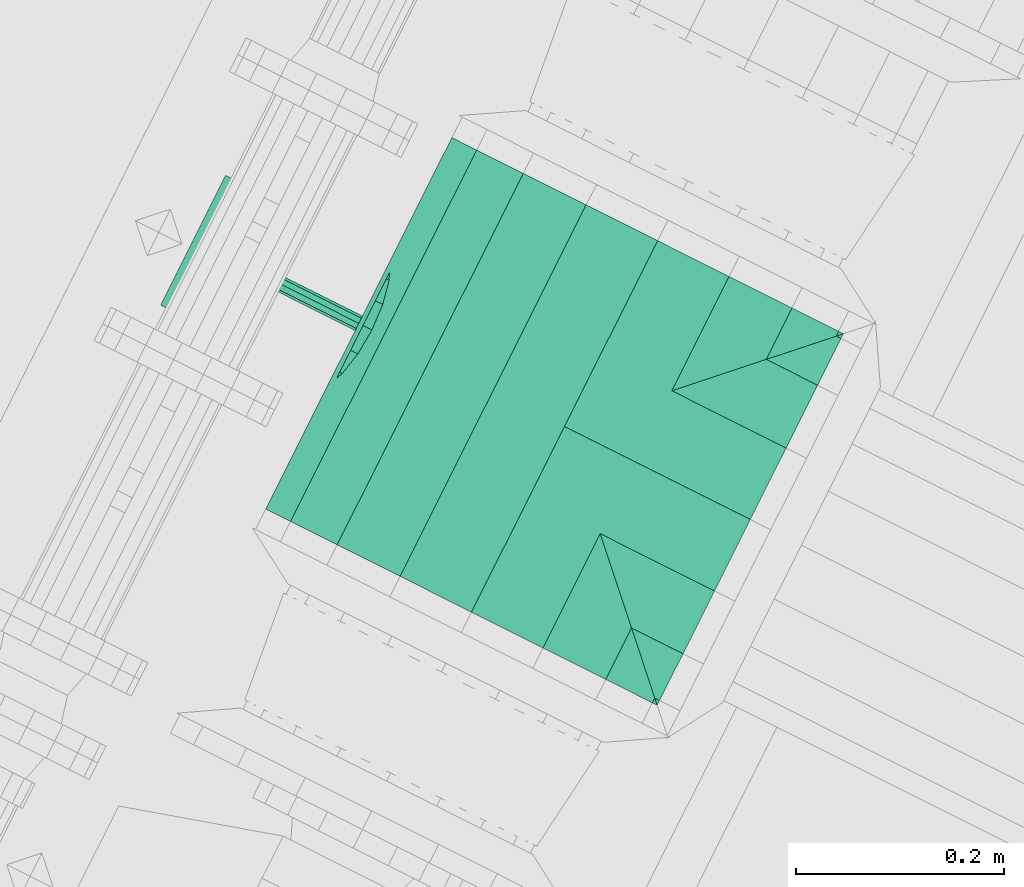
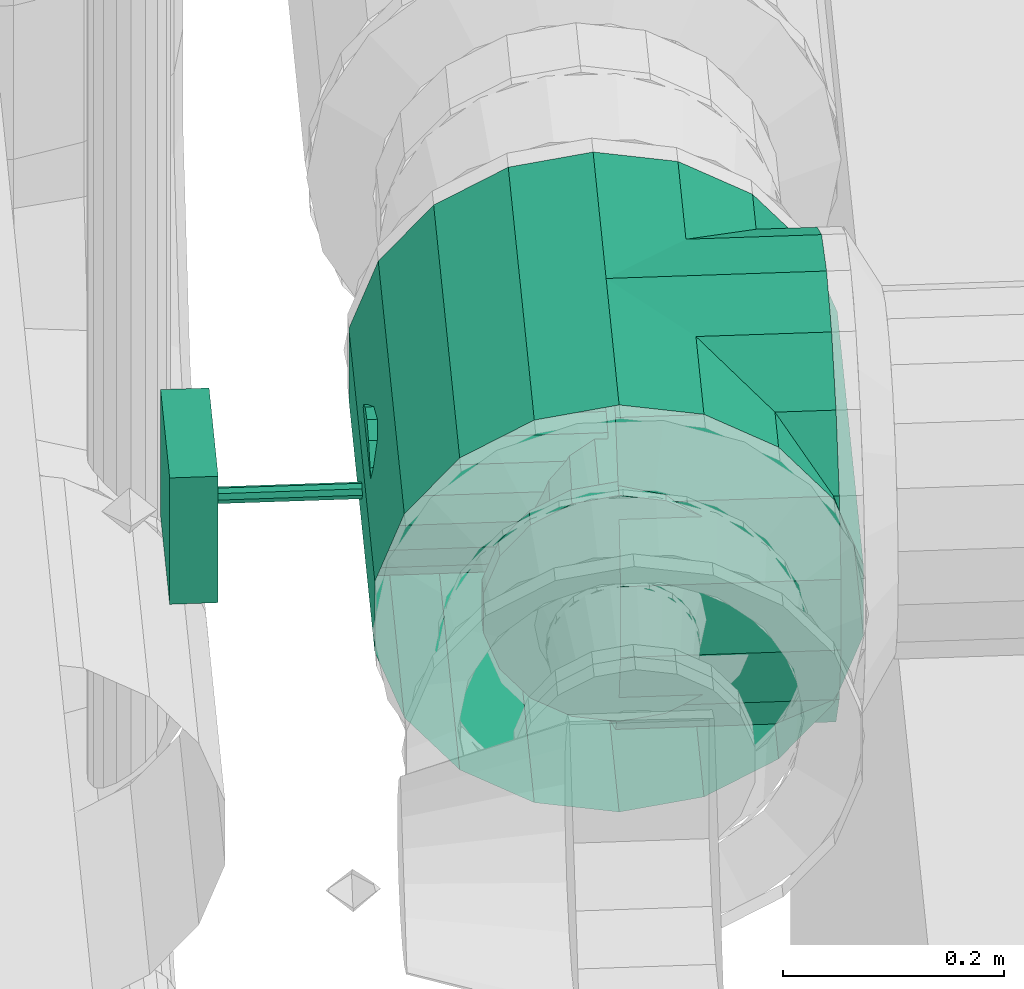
# One storey, part 70 of 206: 1 flow controller.
"""IFC2X3 building model written with IfcOpenShell, lengths in metres."""

from ifc_helpers import new_model, si_unit, derived_unit, direction, frame, origin, place, context, subcontext, project, spatial, face_set, surface_model, source, transform, mapped, material, type_object, type_shapes, element, save


model = new_model("IFC2X3")

# Units and contexts
model_context = context("Model", 3, precision=5.2338327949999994e-05, world=origin(), true_north=direction((0.0, 1.0)))
body_context = subcontext(model_context, "Body", "Model", "MODEL_VIEW")
ifc_project = project(units=[si_unit("LENGTHUNIT", "METRE"), si_unit("AREAUNIT", "SQUARE_METRE"), si_unit("VOLUMEUNIT", "CUBIC_METRE"), si_unit("MASSUNIT", "GRAM", prefix="KILO"), si_unit("PLANEANGLEUNIT", "RADIAN"), derived_unit("THERMALTRANSMITTANCEUNIT", [(si_unit("MASSUNIT", "GRAM", prefix="KILO"), 1), (si_unit("THERMODYNAMICTEMPERATUREUNIT", "KELVIN"), -1), (si_unit("TIMEUNIT", "SECOND"), -3)])], contexts=[model_context])

# Site, building, storey
site_placement = place(None, frame((0.0, 0.0, 0.0), z_axis=(0.0, 0.0, 1.0), x_axis=(0.8939966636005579, -0.4480736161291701, 0.0)))
site = spatial("IfcSite", under=ifc_project, at=site_placement, Name="Default", CompositionType="ELEMENT")
building_placement = place(site_placement, origin())
building = spatial("IfcBuilding", under=site, at=building_placement, CompositionType="ELEMENT")
storey_placement = place(building_placement, origin())
storey = spatial("IfcBuildingStorey", under=building, at=storey_placement, Name="Erdgeschoss", CompositionType="ELEMENT", Elevation=0.0)

# Flow controller
ifc_material = material(Name="IfcSurfaceStyle #1741")
distribution_element_type = type_object("IfcDistributionElementType", Name="Dreiwegeventil 340742:Dreiwegeventil 340742", material=ifc_material)
shared_shape = source(origin(), body_context, "Body", "SurfaceModel", [
    surface_model("IfcFaceBasedSurfaceModel", [(25.083855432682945, 6.5891110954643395, 2.42385), (25.083855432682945, 6.728811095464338, 2.42385), (25.083855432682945, 6.728811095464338, 2.2841500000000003), (25.083855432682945, 6.5891110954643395, 2.2841500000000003), (25.039855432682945, 6.728811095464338, 2.2841500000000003), (25.039855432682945, 6.5891110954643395, 2.2841500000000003), (25.039855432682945, 6.728811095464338, 2.42385), (25.039855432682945, 6.5891110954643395, 2.42385), (25.439855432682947, 6.45896109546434, 2.229), (25.397102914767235, 6.45896109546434, 2.236538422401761), (25.397102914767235, 6.480961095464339, 2.236538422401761), (25.439855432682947, 6.480961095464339, 2.229), (25.359506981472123, 6.45896109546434, 2.2582444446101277), (25.359506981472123, 6.480961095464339, 2.2582444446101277), (25.33160225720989, 6.45896109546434, 2.2915), (25.33160225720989, 6.480961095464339, 2.2915), (25.31675446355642, 6.45896109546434, 2.3322939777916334), (25.31675446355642, 6.480961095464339, 2.3322939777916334), (25.31675446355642, 6.45896109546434, 2.3757060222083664), (25.31675446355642, 6.480961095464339, 2.3757060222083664), (25.33160225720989, 6.45896109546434, 2.4165), (25.33160225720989, 6.480961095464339, 2.4165), (25.359506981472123, 6.45896109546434, 2.4497555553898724), (25.359506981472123, 6.480961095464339, 2.4497555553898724), (25.397102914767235, 6.45896109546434, 2.4714615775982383), (25.397102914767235, 6.480961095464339, 2.4714615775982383), (25.439855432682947, 6.45896109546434, 2.479), (25.439855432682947, 6.480961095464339, 2.479), (25.482607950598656, 6.45896109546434, 2.4714615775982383), (25.482607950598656, 6.480961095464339, 2.4714615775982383), (25.520203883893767, 6.45896109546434, 2.4497555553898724), (25.520203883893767, 6.480961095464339, 2.4497555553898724), (25.548108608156, 6.45896109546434, 2.4165), (25.548108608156, 6.480961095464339, 2.4165), (25.56295640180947, 6.45896109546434, 2.3757060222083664), (25.56295640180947, 6.480961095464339, 2.3757060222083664), (25.56295640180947, 6.45896109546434, 2.3322939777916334), (25.56295640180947, 6.480961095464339, 2.3322939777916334), (25.548108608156, 6.45896109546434, 2.2915), (25.548108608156, 6.480961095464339, 2.2915), (25.520203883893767, 6.45896109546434, 2.2582444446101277), (25.520203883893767, 6.480961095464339, 2.2582444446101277), (25.482607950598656, 6.45896109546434, 2.236538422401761), (25.482607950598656, 6.480961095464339, 2.236538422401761), (25.439855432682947, 6.458961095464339, 2.354), (25.439855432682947, 6.480961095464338, 2.354), (25.517855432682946, 6.480961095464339, 2.354), (25.513151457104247, 6.480961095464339, 2.327322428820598), (25.505492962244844, 6.65896109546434, 2.330109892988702), (25.509705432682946, 6.65896109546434, 2.3539999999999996), (25.499606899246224, 6.480961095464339, 2.3038625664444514), (25.493363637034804, 6.65896109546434, 2.309101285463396), (25.478855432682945, 6.480961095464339, 2.286450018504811), (25.474780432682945, 6.65896109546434, 2.293508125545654), (25.45339999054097, 6.480961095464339, 2.277184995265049), (25.451984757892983, 6.65896109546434, 2.285211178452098), (25.426310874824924, 6.480961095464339, 2.277184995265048), (25.427726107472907, 6.65896109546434, 2.2852111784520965), (25.400855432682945, 6.480961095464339, 2.2864500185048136), (25.404930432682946, 6.65896109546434, 2.2935081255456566), (25.380103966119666, 6.480961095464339, 2.303862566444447), (25.386347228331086, 6.65896109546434, 2.3091012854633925), (25.366559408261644, 6.480961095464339, 2.3273224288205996), (25.374217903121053, 6.65896109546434, 2.330109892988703), (25.361855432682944, 6.480961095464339, 2.353999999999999), (25.370005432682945, 6.65896109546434, 2.3539999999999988), (25.366559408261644, 6.480961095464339, 2.380677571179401), (25.374217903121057, 6.65896109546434, 2.3778901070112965), (25.380103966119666, 6.480961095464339, 2.4041374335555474), (25.386347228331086, 6.65896109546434, 2.398898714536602), (25.400855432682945, 6.480961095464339, 2.4215499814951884), (25.404930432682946, 6.65896109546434, 2.4144918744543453), (25.426310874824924, 6.480961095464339, 2.4308150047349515), (25.427726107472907, 6.65896109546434, 2.422788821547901), (25.45339999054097, 6.480961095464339, 2.4308150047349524), (25.451984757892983, 6.65896109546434, 2.4227888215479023), (25.478855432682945, 6.480961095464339, 2.4215499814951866), (25.474780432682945, 6.65896109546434, 2.414491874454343), (25.499606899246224, 6.480961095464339, 2.404137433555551), (25.493363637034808, 6.65896109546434, 2.3988987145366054), (25.513151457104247, 6.480961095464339, 2.380677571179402), (25.505492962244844, 6.65896109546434, 2.3778901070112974), (25.51315145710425, 6.836961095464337, 2.3273224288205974), (25.51785543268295, 6.836961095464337, 2.354), (25.49960689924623, 6.836961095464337, 2.3038625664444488), (25.478855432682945, 6.836961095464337, 2.2864500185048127), (25.45339999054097, 6.836961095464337, 2.277184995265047), (25.426310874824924, 6.836961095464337, 2.277184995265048), (25.400855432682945, 6.836961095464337, 2.2864500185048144), (25.38010396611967, 6.836961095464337, 2.3038625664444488), (25.366559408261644, 6.836961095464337, 2.3273224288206), (25.36185543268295, 6.836961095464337, 2.354), (25.366559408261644, 6.836961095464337, 2.3806775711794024), (25.380103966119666, 6.836961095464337, 2.40413743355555), (25.400855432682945, 6.836961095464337, 2.4215499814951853), (25.426310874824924, 6.836961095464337, 2.4308150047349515), (25.45339999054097, 6.836961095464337, 2.4308150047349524), (25.478855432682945, 6.836961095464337, 2.421549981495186), (25.499606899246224, 6.836961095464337, 2.4041374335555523), (25.51315145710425, 6.836961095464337, 2.3806775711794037), (25.439855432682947, 6.836961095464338, 2.229), (25.397102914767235, 6.836961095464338, 2.236538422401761), (25.397102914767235, 6.8589610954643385, 2.236538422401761), (25.439855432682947, 6.8589610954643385, 2.229), (25.359506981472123, 6.836961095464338, 2.2582444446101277), (25.359506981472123, 6.8589610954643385, 2.2582444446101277), (25.33160225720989, 6.836961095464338, 2.2915), (25.33160225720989, 6.8589610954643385, 2.2915), (25.31675446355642, 6.836961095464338, 2.3322939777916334), (25.31675446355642, 6.8589610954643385, 2.3322939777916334), (25.31675446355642, 6.836961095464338, 2.3757060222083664), (25.31675446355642, 6.8589610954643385, 2.3757060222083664), (25.33160225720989, 6.836961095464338, 2.4165), (25.33160225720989, 6.8589610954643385, 2.4165), (25.359506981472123, 6.836961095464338, 2.4497555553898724), (25.359506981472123, 6.8589610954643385, 2.4497555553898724), (25.397102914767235, 6.836961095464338, 2.4714615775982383), (25.397102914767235, 6.8589610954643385, 2.4714615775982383), (25.439855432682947, 6.836961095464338, 2.479), (25.439855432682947, 6.8589610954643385, 2.479), (25.482607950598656, 6.836961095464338, 2.4714615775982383), (25.482607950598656, 6.8589610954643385, 2.4714615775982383), (25.520203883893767, 6.836961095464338, 2.4497555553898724), (25.520203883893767, 6.8589610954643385, 2.4497555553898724), (25.548108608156, 6.836961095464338, 2.4165), (25.548108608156, 6.8589610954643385, 2.4165), (25.56295640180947, 6.836961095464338, 2.3757060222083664), (25.56295640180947, 6.8589610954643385, 2.3757060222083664), (25.56295640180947, 6.836961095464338, 2.3322939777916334), (25.56295640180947, 6.8589610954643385, 2.3322939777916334), (25.548108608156, 6.836961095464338, 2.2915), (25.548108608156, 6.8589610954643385, 2.2915), (25.520203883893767, 6.836961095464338, 2.2582444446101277), (25.520203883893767, 6.8589610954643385, 2.2582444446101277), (25.482607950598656, 6.836961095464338, 2.236538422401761), (25.482607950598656, 6.8589610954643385, 2.236538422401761), (25.439855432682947, 6.836961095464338, 2.354), (25.439855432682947, 6.858961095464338, 2.354), (25.439855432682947, 6.658961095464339, 2.276), (25.439855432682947, 6.6322835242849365, 2.2807039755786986), (25.222855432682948, 6.6322835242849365, 2.2807039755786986), (25.222855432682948, 6.658961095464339, 2.276), (25.439855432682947, 6.608823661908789, 2.2942485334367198), (25.222855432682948, 6.608823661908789, 2.2942485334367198), (25.439855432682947, 6.591411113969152, 2.315), (25.222855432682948, 6.591411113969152, 2.315), (25.439855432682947, 6.582146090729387, 2.3404554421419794), (25.222855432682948, 6.582146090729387, 2.3404554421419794), (25.439855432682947, 6.582146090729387, 2.3675445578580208), (25.222855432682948, 6.582146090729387, 2.3675445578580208), (25.439855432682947, 6.591411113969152, 2.3930000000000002), (25.222855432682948, 6.591411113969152, 2.3930000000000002), (25.439855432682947, 6.608823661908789, 2.4137514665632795), (25.222855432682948, 6.608823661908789, 2.4137514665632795), (25.439855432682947, 6.6322835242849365, 2.427296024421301), (25.222855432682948, 6.6322835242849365, 2.427296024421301), (25.439855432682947, 6.658961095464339, 2.4319999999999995), (25.222855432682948, 6.658961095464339, 2.4319999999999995), (25.439855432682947, 6.685638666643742, 2.427296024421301), (25.222855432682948, 6.685638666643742, 2.427296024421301), (25.439855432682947, 6.709098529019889, 2.41375146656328), (25.222855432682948, 6.709098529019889, 2.41375146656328), (25.439855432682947, 6.726511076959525, 2.3930000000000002), (25.222855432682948, 6.726511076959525, 2.3930000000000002), (25.439855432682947, 6.73577610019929, 2.3675445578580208), (25.222855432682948, 6.73577610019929, 2.3675445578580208), (25.439855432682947, 6.73577610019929, 2.3404554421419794), (25.222855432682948, 6.73577610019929, 2.3404554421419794), (25.439855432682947, 6.726511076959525, 2.315), (25.222855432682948, 6.726511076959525, 2.315), (25.439855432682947, 6.709098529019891, 2.2942485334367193), (25.222855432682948, 6.709098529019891, 2.2942485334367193), (25.439855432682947, 6.685638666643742, 2.280703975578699), (25.222855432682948, 6.685638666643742, 2.280703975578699), (25.439855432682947, 6.658961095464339, 2.354), (25.222855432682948, 6.658961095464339, 2.354), (25.222855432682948, 6.658961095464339, 2.3462), (25.222855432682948, 6.653445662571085, 2.348484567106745), (25.083855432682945, 6.653445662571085, 2.348484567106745), (25.083855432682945, 6.658961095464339, 2.3462), (25.222855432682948, 6.65116109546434, 2.3539999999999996), (25.083855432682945, 6.65116109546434, 2.3539999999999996), (25.222855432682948, 6.653445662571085, 2.359515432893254), (25.083855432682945, 6.653445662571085, 2.359515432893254), (25.222855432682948, 6.658961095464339, 2.3617999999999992), (25.083855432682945, 6.658961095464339, 2.3617999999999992), (25.222855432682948, 6.664476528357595, 2.359515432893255), (25.083855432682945, 6.664476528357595, 2.359515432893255), (25.222855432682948, 6.666761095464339, 2.3540000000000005), (25.083855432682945, 6.666761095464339, 2.3540000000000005), (25.222855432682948, 6.664476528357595, 2.3484845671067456), (25.083855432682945, 6.664476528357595, 2.3484845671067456), (25.083855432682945, 6.658961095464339, 2.354), (25.439855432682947, 6.5891110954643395, 2.354), (25.439855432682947, 6.593323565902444, 2.3301098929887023), (25.617855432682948, 6.585665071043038, 2.3273224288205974), (25.617855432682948, 6.580961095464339, 2.354), (25.439855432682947, 6.605452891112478, 2.3091012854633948), (25.617855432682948, 6.599209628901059, 2.303862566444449), (25.439855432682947, 6.624036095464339, 2.293508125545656), (25.617855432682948, 6.619961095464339, 2.286450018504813), (25.439855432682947, 6.646831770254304, 2.285211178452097), (25.617855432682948, 6.6454165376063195, 2.277184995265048), (25.439855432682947, 6.671090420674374, 2.285211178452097), (25.617855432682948, 6.672505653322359, 2.277184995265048), (25.439855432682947, 6.6938860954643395, 2.2935081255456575), (25.617855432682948, 6.69796109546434, 2.2864500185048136), (25.439855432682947, 6.7124692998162, 2.309101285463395), (25.617855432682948, 6.718712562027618, 2.3038625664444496), (25.439855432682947, 6.724598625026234, 2.3301098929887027), (25.617855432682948, 6.73225711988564, 2.3273224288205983), (25.439855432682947, 6.728811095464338, 2.354), (25.617855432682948, 6.7369610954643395, 2.354), (25.439855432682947, 6.724598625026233, 2.3778901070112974), (25.617855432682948, 6.732257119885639, 2.380677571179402), (25.439855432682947, 6.712469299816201, 2.3988987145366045), (25.617855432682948, 6.718712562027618, 2.40413743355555), (25.439855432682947, 6.6938860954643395, 2.414491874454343), (25.617855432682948, 6.69796109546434, 2.4215499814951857), (25.439855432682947, 6.671090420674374, 2.4227888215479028), (25.617855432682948, 6.672505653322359, 2.430815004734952), (25.439855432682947, 6.646831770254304, 2.4227888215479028), (25.617855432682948, 6.6454165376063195, 2.4308150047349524), (25.439855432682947, 6.624036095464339, 2.4144918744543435), (25.617855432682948, 6.619961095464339, 2.4215499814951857), (25.439855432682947, 6.6054528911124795, 2.3988987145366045), (25.617855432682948, 6.59920962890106, 2.40413743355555), (25.439855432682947, 6.593323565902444, 2.3778901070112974), (25.617855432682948, 6.585665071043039, 2.380677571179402), (25.617855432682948, 6.658961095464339, 2.229), (25.617855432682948, 6.701713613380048, 2.236538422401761), (25.639855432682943, 6.701713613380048, 2.236538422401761), (25.639855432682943, 6.658961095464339, 2.229), (25.617855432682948, 6.739309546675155, 2.2582444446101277), (25.639855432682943, 6.739309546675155, 2.2582444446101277), (25.617855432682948, 6.7672142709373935, 2.291499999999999), (25.639855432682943, 6.7672142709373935, 2.291499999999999), (25.617855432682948, 6.782062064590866, 2.332293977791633), (25.639855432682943, 6.782062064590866, 2.332293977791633), (25.617855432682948, 6.782062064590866, 2.3757060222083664), (25.639855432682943, 6.782062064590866, 2.3757060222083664), (25.617855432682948, 6.7672142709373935, 2.4165000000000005), (25.639855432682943, 6.7672142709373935, 2.4165000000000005), (25.617855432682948, 6.739309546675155, 2.4497555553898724), (25.639855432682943, 6.739309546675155, 2.4497555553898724), (25.617855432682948, 6.701713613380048, 2.4714615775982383), (25.639855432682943, 6.701713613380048, 2.4714615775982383), (25.617855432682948, 6.658961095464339, 2.479), (25.639855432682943, 6.658961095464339, 2.479), (25.617855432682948, 6.616208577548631, 2.4714615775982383), (25.639855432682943, 6.616208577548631, 2.4714615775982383), (25.617855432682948, 6.578612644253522, 2.4497555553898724), (25.639855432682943, 6.578612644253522, 2.4497555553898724), (25.617855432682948, 6.550707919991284, 2.4165000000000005), (25.639855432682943, 6.550707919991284, 2.4165000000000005), (25.617855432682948, 6.535860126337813, 2.3757060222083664), (25.639855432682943, 6.535860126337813, 2.3757060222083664), (25.617855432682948, 6.535860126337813, 2.3322939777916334), (25.639855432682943, 6.535860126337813, 2.3322939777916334), (25.617855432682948, 6.550707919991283, 2.2914999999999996), (25.639855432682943, 6.550707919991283, 2.2914999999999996), (25.617855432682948, 6.578612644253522, 2.2582444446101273), (25.639855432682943, 6.578612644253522, 2.2582444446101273), (25.617855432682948, 6.616208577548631, 2.2365384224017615), (25.639855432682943, 6.616208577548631, 2.2365384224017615), (25.617855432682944, 6.658961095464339, 2.354), (25.63985543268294, 6.658961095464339, 2.354), (25.43985543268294, 6.45896109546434, 2.1289999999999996), (25.362900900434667, 6.45896109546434, 2.1425691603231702), (25.362900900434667, 6.8589610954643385, 2.1425691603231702), (25.43985543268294, 6.8589610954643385, 2.1289999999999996), (25.29522822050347, 6.45896109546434, 2.1816400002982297), (25.29522822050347, 6.8589610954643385, 2.1816400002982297), (25.24499971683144, 6.45896109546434, 2.2415), (25.24499971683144, 6.8589610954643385, 2.2415), (25.2182736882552, 6.45896109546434, 2.3149291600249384), (25.2182736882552, 6.8589610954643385, 2.3149291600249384), (25.2182736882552, 6.45896109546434, 2.393070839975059), (25.2182736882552, 6.8589610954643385, 2.393070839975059), (25.24499971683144, 6.45896109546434, 2.4665000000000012), (25.24499971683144, 6.8589610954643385, 2.4665000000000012), (25.29522822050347, 6.45896109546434, 2.52635999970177), (25.29522822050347, 6.8589610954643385, 2.52635999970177), (25.362900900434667, 6.45896109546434, 2.565430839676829), (25.362900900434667, 6.8589610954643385, 2.565430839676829), (25.43985543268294, 6.45896109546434, 2.5790000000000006), (25.43985543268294, 6.8589610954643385, 2.5790000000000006), (25.516809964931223, 6.45896109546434, 2.5654308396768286), (25.516809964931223, 6.8589610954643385, 2.5654308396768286), (25.584482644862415, 6.45896109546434, 2.526359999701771), (25.584482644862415, 6.8589610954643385, 2.526359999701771), (25.63471114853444, 6.45896109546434, 2.4664999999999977), (25.63471114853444, 6.8589610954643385, 2.4664999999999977), (25.66143717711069, 6.45896109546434, 2.393070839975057), (25.66143717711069, 6.8589610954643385, 2.393070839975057), (25.66143717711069, 6.45896109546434, 2.31492916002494), (25.66143717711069, 6.8589610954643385, 2.31492916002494), (25.63471114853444, 6.45896109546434, 2.2415000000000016), (25.63471114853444, 6.8589610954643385, 2.2415000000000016), (25.584482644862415, 6.45896109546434, 2.181640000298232), (25.584482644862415, 6.8589610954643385, 2.181640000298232), (25.51680996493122, 6.45896109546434, 2.1425691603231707), (25.51680996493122, 6.8589610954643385, 2.1425691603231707), (25.43985543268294, 6.658961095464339, 2.129), (25.43985543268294, 6.735915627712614, 2.1425691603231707), (25.639855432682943, 6.735915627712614, 2.1425691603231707), (25.639855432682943, 6.658961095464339, 2.129), (25.43985543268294, 6.80358830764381, 2.1816400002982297), (25.639855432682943, 6.80358830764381, 2.1816400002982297), (25.43985543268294, 6.853816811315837, 2.2415), (25.639855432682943, 6.853816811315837, 2.2415), (25.43985543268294, 6.880542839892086, 2.31492916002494), (25.639855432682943, 6.880542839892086, 2.31492916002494), (25.43985543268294, 6.880542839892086, 2.393070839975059), (25.639855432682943, 6.880542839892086, 2.393070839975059), (25.43985543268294, 6.853816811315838, 2.4664999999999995), (25.639855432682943, 6.853816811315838, 2.4664999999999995), (25.43985543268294, 6.803588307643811, 2.52635999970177), (25.639855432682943, 6.803588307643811, 2.52635999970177), (25.43985543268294, 6.735915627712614, 2.565430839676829), (25.639855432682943, 6.735915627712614, 2.565430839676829), (25.43985543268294, 6.658961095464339, 2.579), (25.639855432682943, 6.658961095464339, 2.579), (25.43985543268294, 6.582006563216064, 2.565430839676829), (25.639855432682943, 6.582006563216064, 2.565430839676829), (25.43985543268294, 6.514333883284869, 2.52635999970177), (25.639855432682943, 6.514333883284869, 2.52635999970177), (25.43985543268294, 6.464105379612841, 2.4664999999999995), (25.639855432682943, 6.464105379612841, 2.4664999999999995), (25.43985543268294, 6.437379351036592, 2.3930708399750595), (25.639855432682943, 6.437379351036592, 2.3930708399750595), (25.43985543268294, 6.437379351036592, 2.31492916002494), (25.639855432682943, 6.437379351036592, 2.31492916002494), (25.43985543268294, 6.464105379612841, 2.241499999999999), (25.639855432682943, 6.464105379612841, 2.241499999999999), (25.43985543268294, 6.514333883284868, 2.1816400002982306), (25.639855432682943, 6.514333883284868, 2.1816400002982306), (25.43985543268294, 6.582006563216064, 2.14256916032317), (25.639855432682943, 6.582006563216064, 2.14256916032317)], [face_set([[[0, 1, 2, 3]], [[3, 2, 4, 5]], [[5, 4, 6, 7]], [[7, 6, 1, 0]], [[0, 3, 5, 7]], [[6, 4, 2, 1]], [[8, 9, 10, 11]], [[9, 12, 13, 10]], [[12, 14, 15, 13]], [[14, 16, 17, 15]], [[16, 18, 19, 17]], [[18, 20, 21, 19]], [[20, 22, 23, 21]], [[22, 24, 25, 23]], [[24, 26, 27, 25]], [[26, 28, 29, 27]], [[28, 30, 31, 29]], [[30, 32, 33, 31]], [[32, 34, 35, 33]], [[34, 36, 37, 35]], [[36, 38, 39, 37]], [[38, 40, 41, 39]], [[40, 42, 43, 41]], [[42, 8, 11, 43]], [[44, 9, 8]], [[44, 12, 9]], [[44, 14, 12]], [[44, 16, 14]], [[44, 18, 16]], [[44, 20, 18]], [[44, 22, 20]], [[44, 24, 22]], [[44, 26, 24]], [[44, 28, 26]], [[44, 30, 28]], [[44, 32, 30]], [[44, 34, 32]], [[44, 36, 34]], [[44, 38, 36]], [[44, 40, 38]], [[44, 42, 40]], [[44, 8, 42]], [[45, 43, 11]], [[45, 41, 43]], [[45, 39, 41]], [[45, 37, 39]], [[45, 35, 37]], [[45, 33, 35]], [[45, 31, 33]], [[45, 29, 31]], [[45, 27, 29]], [[45, 25, 27]], [[45, 23, 25]], [[45, 21, 23]], [[45, 19, 21]], [[45, 17, 19]], [[45, 15, 17]], [[45, 13, 15]], [[45, 10, 13]], [[45, 11, 10]], [[46, 47, 48, 49]], [[47, 50, 51, 48]], [[50, 52, 53, 51]], [[52, 54, 55, 53]], [[54, 56, 57, 55]], [[56, 58, 59, 57]], [[58, 60, 61, 59]], [[60, 62, 63, 61]], [[62, 64, 65, 63]], [[64, 66, 67, 65]], [[66, 68, 69, 67]], [[68, 70, 71, 69]], [[70, 72, 73, 71]], [[72, 74, 75, 73]], [[74, 76, 77, 75]], [[76, 78, 79, 77]], [[78, 80, 81, 79]], [[80, 46, 49, 81]], [[49, 48, 82, 83]], [[48, 51, 84, 82]], [[51, 53, 85, 84]], [[53, 55, 86, 85]], [[55, 57, 87, 86]], [[57, 59, 88, 87]], [[59, 61, 89, 88]], [[61, 63, 90, 89]], [[63, 65, 91, 90]], [[65, 67, 92, 91]], [[67, 69, 93, 92]], [[69, 71, 94, 93]], [[71, 73, 95, 94]], [[73, 75, 96, 95]], [[75, 77, 97, 96]], [[77, 79, 98, 97]], [[79, 81, 99, 98]], [[81, 49, 83, 99]], [[100, 101, 102, 103]], [[101, 104, 105, 102]], [[104, 106, 107, 105]], [[106, 108, 109, 107]], [[108, 110, 111, 109]], [[110, 112, 113, 111]], [[112, 114, 115, 113]], [[114, 116, 117, 115]], [[116, 118, 119, 117]], [[118, 120, 121, 119]], [[120, 122, 123, 121]], [[122, 124, 125, 123]], [[124, 126, 127, 125]], [[126, 128, 129, 127]], [[128, 130, 131, 129]], [[130, 132, 133, 131]], [[132, 134, 135, 133]], [[134, 100, 103, 135]], [[136, 101, 100]], [[136, 104, 101]], [[136, 106, 104]], [[136, 108, 106]], [[136, 110, 108]], [[136, 112, 110]], [[136, 114, 112]], [[136, 116, 114]], [[136, 118, 116]], [[136, 120, 118]], [[136, 122, 120]], [[136, 124, 122]], [[136, 126, 124]], [[136, 128, 126]], [[136, 130, 128]], [[136, 132, 130]], [[136, 134, 132]], [[136, 100, 134]], [[137, 135, 103]], [[137, 133, 135]], [[137, 131, 133]], [[137, 129, 131]], [[137, 127, 129]], [[137, 125, 127]], [[137, 123, 125]], [[137, 121, 123]], [[137, 119, 121]], [[137, 117, 119]], [[137, 115, 117]], [[137, 113, 115]], [[137, 111, 113]], [[137, 109, 111]], [[137, 107, 109]], [[137, 105, 107]], [[137, 102, 105]], [[137, 103, 102]], [[138, 139, 140, 141]], [[139, 142, 143, 140]], [[142, 144, 145, 143]], [[144, 146, 147, 145]], [[146, 148, 149, 147]], [[148, 150, 151, 149]], [[150, 152, 153, 151]], [[152, 154, 155, 153]], [[154, 156, 157, 155]], [[156, 158, 159, 157]], [[158, 160, 161, 159]], [[160, 162, 163, 161]], [[162, 164, 165, 163]], [[164, 166, 167, 165]], [[166, 168, 169, 167]], [[168, 170, 171, 169]], [[170, 172, 173, 171]], [[172, 138, 141, 173]], [[174, 139, 138]], [[174, 142, 139]], [[174, 144, 142]], [[174, 146, 144]], [[174, 148, 146]], [[174, 150, 148]], [[174, 152, 150]], [[174, 154, 152]], [[174, 156, 154]], [[174, 158, 156]], [[174, 160, 158]], [[174, 162, 160]], [[174, 164, 162]], [[174, 166, 164]], [[174, 168, 166]], [[174, 170, 168]], [[174, 172, 170]], [[174, 138, 172]], [[175, 173, 141]], [[175, 171, 173]], [[175, 169, 171]], [[175, 167, 169]], [[175, 165, 167]], [[175, 163, 165]], [[175, 161, 163]], [[175, 159, 161]], [[175, 157, 159]], [[175, 155, 157]], [[175, 153, 155]], [[175, 151, 153]], [[175, 149, 151]], [[175, 147, 149]], [[175, 145, 147]], [[175, 143, 145]], [[175, 140, 143]], [[175, 141, 140]], [[176, 177, 178, 179]], [[177, 180, 181, 178]], [[180, 182, 183, 181]], [[182, 184, 185, 183]], [[184, 186, 187, 185]], [[186, 188, 189, 187]], [[188, 190, 191, 189]], [[190, 176, 179, 191]], [[192, 191, 179]], [[192, 189, 191]], [[192, 187, 189]], [[192, 185, 187]], [[192, 183, 185]], [[192, 181, 183]], [[192, 178, 181]], [[192, 179, 178]], [[193, 194, 195, 196]], [[194, 197, 198, 195]], [[197, 199, 200, 198]], [[199, 201, 202, 200]], [[201, 203, 204, 202]], [[203, 205, 206, 204]], [[205, 207, 208, 206]], [[207, 209, 210, 208]], [[209, 211, 212, 210]], [[211, 213, 214, 212]], [[213, 215, 216, 214]], [[215, 217, 218, 216]], [[217, 219, 220, 218]], [[219, 221, 222, 220]], [[221, 223, 224, 222]], [[223, 225, 226, 224]], [[225, 227, 228, 226]], [[227, 193, 196, 228]], [[229, 230, 231, 232]], [[230, 233, 234, 231]], [[233, 235, 236, 234]], [[235, 237, 238, 236]], [[237, 239, 240, 238]], [[239, 241, 242, 240]], [[241, 243, 244, 242]], [[243, 245, 246, 244]], [[245, 247, 248, 246]], [[247, 249, 250, 248]], [[249, 251, 252, 250]], [[251, 253, 254, 252]], [[253, 255, 256, 254]], [[255, 257, 258, 256]], [[257, 259, 260, 258]], [[259, 261, 262, 260]], [[261, 263, 264, 262]], [[263, 229, 232, 264]], [[265, 230, 229]], [[265, 233, 230]], [[265, 235, 233]], [[265, 237, 235]], [[265, 239, 237]], [[265, 241, 239]], [[265, 243, 241]], [[265, 245, 243]], [[265, 247, 245]], [[265, 249, 247]], [[265, 251, 249]], [[265, 253, 251]], [[265, 255, 253]], [[265, 257, 255]], [[265, 259, 257]], [[265, 261, 259]], [[265, 263, 261]], [[265, 229, 263]], [[266, 264, 232]], [[266, 262, 264]], [[266, 260, 262]], [[266, 258, 260]], [[266, 256, 258]], [[266, 254, 256]], [[266, 252, 254]], [[266, 250, 252]], [[266, 248, 250]], [[266, 246, 248]], [[266, 244, 246]], [[266, 242, 244]], [[266, 240, 242]], [[266, 238, 240]], [[266, 236, 238]], [[266, 234, 236]], [[266, 231, 234]], [[266, 232, 231]], [[267, 268, 269, 270]], [[268, 271, 272, 269]], [[271, 273, 274, 272]], [[273, 275, 276, 274]], [[275, 277, 278, 276]], [[277, 279, 280, 278]], [[279, 281, 282, 280]], [[281, 283, 284, 282]], [[283, 285, 286, 284]], [[285, 287, 288, 286]], [[287, 289, 290, 288]], [[289, 291, 292, 290]], [[291, 293, 294, 292]], [[293, 295, 296, 294]], [[295, 297, 298, 296]], [[297, 299, 300, 298]], [[299, 301, 302, 300]], [[301, 267, 270, 302]], [[303, 304, 305, 306]], [[304, 307, 308, 305]], [[307, 309, 310, 308]], [[309, 311, 312, 310]], [[311, 313, 314, 312]], [[313, 315, 316, 314]], [[315, 317, 318, 316]], [[317, 319, 320, 318]], [[319, 321, 322, 320]], [[321, 323, 324, 322]], [[323, 325, 326, 324]], [[325, 327, 328, 326]], [[327, 329, 330, 328]], [[329, 331, 332, 330]], [[331, 333, 334, 332]], [[333, 335, 336, 334]], [[335, 337, 338, 336]], [[337, 303, 306, 338]]])]),
])
type_shapes(distribution_element_type, [shared_shape])
flow_controller_placement = place(storey_placement, origin())
element("IfcFlowController", 1, at=flow_controller_placement, inside=storey, type_object=distribution_element_type, material=ifc_material, Name="Dreiwegeventil", ObjectType="Dreiwegeventil", context=body_context, shape_type="MappedRepresentation", body=[
    mapped(shared_shape, transform((0.0, 0.0, 0.0), scale=1.0)),
])

save(model, "model.ifc")
